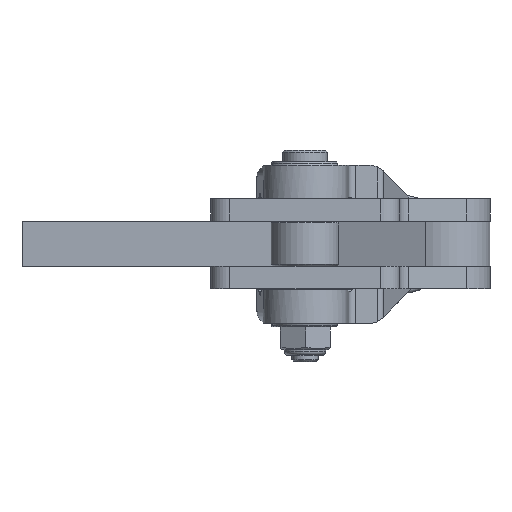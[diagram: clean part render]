
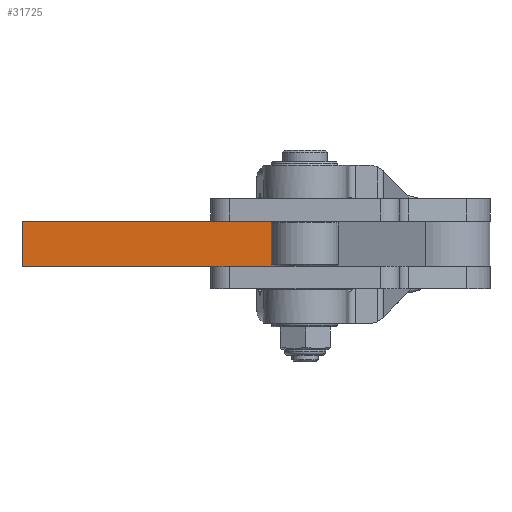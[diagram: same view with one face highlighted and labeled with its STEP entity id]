
A CAD part, front view. The second image highlights one B-rep face of the part: STEP entity #31725.
In plain terms, the highlighted planar face has unit normal (0, -1, 0).
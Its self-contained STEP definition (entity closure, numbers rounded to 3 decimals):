
#1327=PLANE('',#33942);
#3125=FACE_OUTER_BOUND('',#4851,.T.);
#4851=EDGE_LOOP('',(#25687,#25688,#25689,#25690));
#7133=LINE('',#58176,#10054);
#7134=LINE('',#58182,#10055);
#7140=LINE('',#58196,#10061);
#7146=LINE('',#58208,#10067);
#10054=VECTOR('',#39377,1000.);
#10055=VECTOR('',#39382,1000.);
#10061=VECTOR('',#39394,1000.);
#10067=VECTOR('',#39412,1000.);
#14569=VERTEX_POINT('',#58161);
#14576=VERTEX_POINT('',#58174);
#14577=VERTEX_POINT('',#58178);
#14579=VERTEX_POINT('',#58181);
#18554=EDGE_CURVE('',#14576,#14569,#7133,.T.);
#18556=EDGE_CURVE('',#14579,#14577,#7134,.T.);
#18564=EDGE_CURVE('',#14569,#14577,#7140,.T.);
#18570=EDGE_CURVE('',#14576,#14579,#7146,.T.);
#25687=ORIENTED_EDGE('',*,*,#18556,.T.);
#25688=ORIENTED_EDGE('',*,*,#18564,.F.);
#25689=ORIENTED_EDGE('',*,*,#18554,.F.);
#25690=ORIENTED_EDGE('',*,*,#18570,.T.);
#31725=ADVANCED_FACE('',(#3125),#1327,.F.);
#33942=AXIS2_PLACEMENT_3D('',#58209,#39413,#39414);
#39377=DIRECTION('',(1.,0.,0.));
#39382=DIRECTION('',(1.,0.,0.));
#39394=DIRECTION('',(0.,0.,-1.));
#39412=DIRECTION('',(0.,0.,-1.));
#39413=DIRECTION('center_axis',(0.,1.,0.));
#39414=DIRECTION('ref_axis',(0.,0.,1.));
#58161=CARTESIAN_POINT('',(-37.885,1.027,12.));
#58174=CARTESIAN_POINT('',(-111.5,1.027,12.));
#58176=CARTESIAN_POINT('',(-111.5,1.027,12.));
#58178=CARTESIAN_POINT('',(-37.885,1.027,0.));
#58181=CARTESIAN_POINT('',(-111.5,1.027,0.));
#58182=CARTESIAN_POINT('',(-111.5,1.027,0.));
#58196=CARTESIAN_POINT('',(-37.885,1.027,12.));
#58208=CARTESIAN_POINT('',(-111.5,1.027,12.));
#58209=CARTESIAN_POINT('Origin',(-111.5,1.027,12.));
